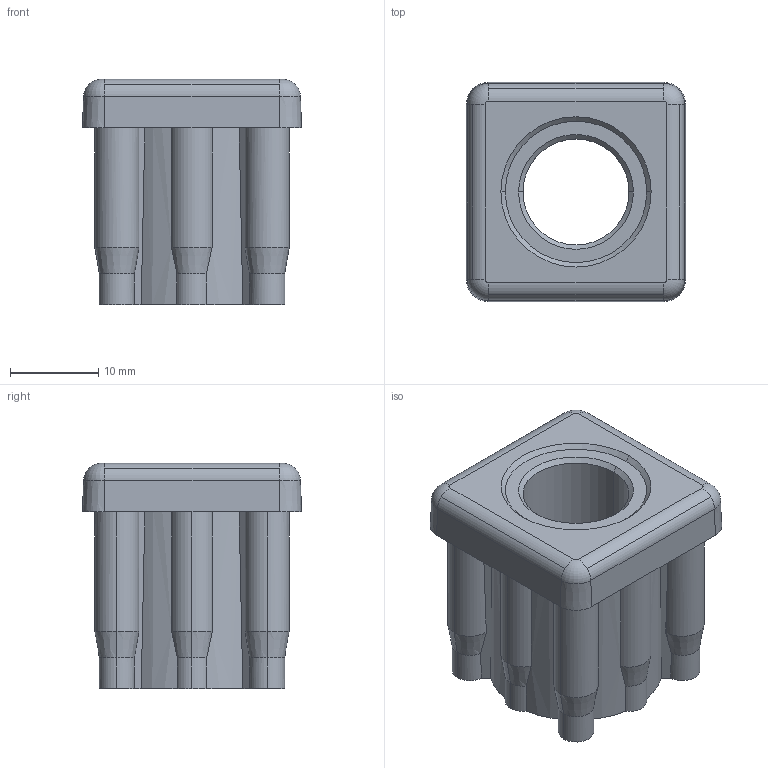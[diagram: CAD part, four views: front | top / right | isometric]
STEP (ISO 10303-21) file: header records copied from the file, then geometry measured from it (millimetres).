
FILE_DESCRIPTION (( 'STEP AP214' ), '1' );
FILE_NAME ('42006825212.STEP', '2020-02-25T17:32:43', ( '' ), ( '' ), 'SwSTEP 2.0', 'SolidWorks 2018', '' );
FILE_SCHEMA (( 'AUTOMOTIVE_DESIGN' ));
Length unit declared in the file: metre
Products named in the file (1): 42006825212
Bounding box: 24.8 x 24.8 x 25.5 mm (x, y, z)
Volume: 7923.1 mm3; surface area: 5548.9 mm2
Topology: 2 solids, 2 shells, 119 faces, 300 edges, 188 vertices
Faces by surface type: cylinder 62, cone 30, plane 19, torus 8
Entity records: 3641 total; most frequent: CARTESIAN_POINT 740, DIRECTION 640, ORIENTED_EDGE 600, EDGE_CURVE 300, AXIS2_PLACEMENT_3D 268, VERTEX_POINT 188, CIRCLE 148, EDGE_LOOP 126
